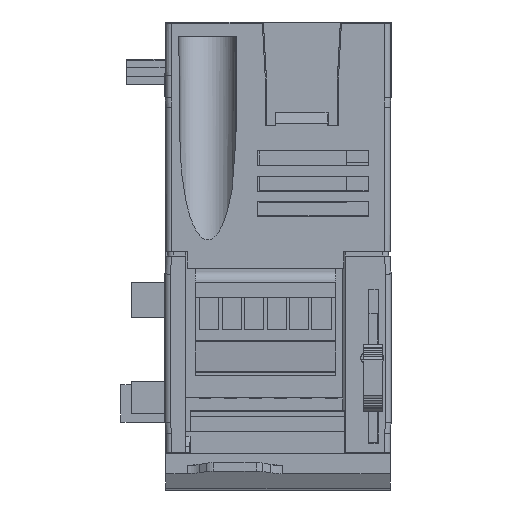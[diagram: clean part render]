
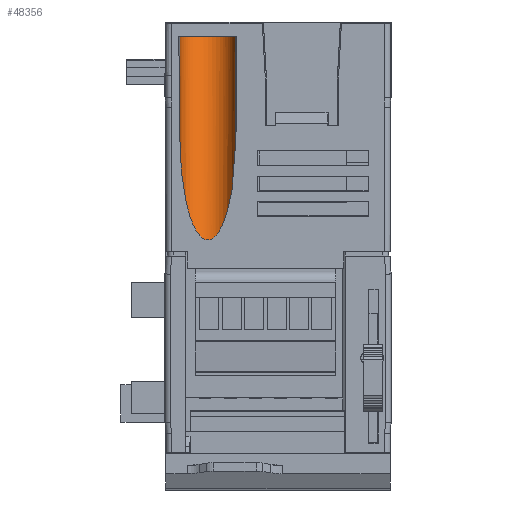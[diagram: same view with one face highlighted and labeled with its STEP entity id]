
A CAD part, front view. The second image highlights one B-rep face of the part: STEP entity #48356.
In plain terms, the highlighted cylindrical face has radius 5 mm (diameter 10 mm), a partial arc.
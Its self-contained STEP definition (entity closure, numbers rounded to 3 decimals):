
#17754=CARTESIAN_POINT('',(75.3,-39.781,0.9));
#17755=CARTESIAN_POINT('',(75.3,-38.931,0.9));
#17756=CARTESIAN_POINT('',(74.949,-37.582,0.9));
#17757=CARTESIAN_POINT('',(73.929,-36.051,0.9));
#17758=CARTESIAN_POINT('',(72.713,-35.143,0.9));
#17759=CARTESIAN_POINT('',(71.469,-34.686,0.9));
#17760=CARTESIAN_POINT('',(70.725,-34.58,0.9));
#17761=CARTESIAN_POINT('',(70.3,-34.58,0.9));
#17763=CARTESIAN_POINT('',(70.3,-34.58,0.9));
#17764=CARTESIAN_POINT('',(69.875,-34.58,0.9));
#17765=CARTESIAN_POINT('',(69.131,-34.686,0.9));
#17766=CARTESIAN_POINT('',(67.887,-35.143,0.9));
#17767=CARTESIAN_POINT('',(66.671,-36.051,0.9));
#17768=CARTESIAN_POINT('',(65.651,-37.582,0.9));
#17769=CARTESIAN_POINT('',(65.3,-38.931,0.9));
#17770=CARTESIAN_POINT('',(65.3,-39.781,0.9));
#17786=DIRECTION('',(0.,0.276,0.961));
#17787=VECTOR('',#17786,18.927);
#17788=CARTESIAN_POINT('',(75.3,-44.998,
-17.293));
#17789=LINE('',#17788,#17787);
#17790=CARTESIAN_POINT('',(75.3,-44.998,
-17.293));
#17791=CARTESIAN_POINT('',(75.3,-44.998,
-19.431));
#17792=CARTESIAN_POINT('',(75.087,-44.998,
-24.049));
#17793=CARTESIAN_POINT('',(73.94,-44.998,
-30.504));
#17794=CARTESIAN_POINT('',(72.461,-44.998,
-33.964));
#17795=CARTESIAN_POINT('',(71.203,-44.998,
-35.242));
#17796=CARTESIAN_POINT('',(70.3,-44.998,
-35.529));
#17797=CARTESIAN_POINT('',(69.397,-44.998,
-35.242));
#17798=CARTESIAN_POINT('',(68.139,-44.998,
-33.964));
#17799=CARTESIAN_POINT('',(66.66,-44.998,
-30.504));
#17800=CARTESIAN_POINT('',(65.513,-44.998,
-24.049));
#17801=CARTESIAN_POINT('',(65.3,-44.998,
-19.431));
#17802=CARTESIAN_POINT('',(65.3,-44.998,
-17.293));
#17804=DIRECTION('',(0.,-0.276,-0.961));
#17805=VECTOR('',#17804,18.927);
#17806=CARTESIAN_POINT('',(65.3,-39.781,0.9));
#17807=LINE('',#17806,#17805);
#21834=CARTESIAN_POINT('',(65.3,-44.998,
-17.293));
#21835=VERTEX_POINT('',#21834);
#21836=VERTEX_POINT('',#17790);
#21952=CARTESIAN_POINT('',(75.3,-39.781,
0.9));
#21953=VERTEX_POINT('',#21952);
#21954=VERTEX_POINT('',#17761);
#21955=VERTEX_POINT('',#17770);
#48343=CARTESIAN_POINT('',(70.3,-51.968,-41.6));
#48344=DIRECTION('',(0.,-0.276,-0.961));
#48345=DIRECTION('',(1.,0.,0.));
#48346=AXIS2_PLACEMENT_3D('',#48343,#48344,#48345);
#48347=CYLINDRICAL_SURFACE('',#48346,5.);
#48348=ORIENTED_EDGE('',*,*,#23595,.T.);
#48350=ORIENTED_EDGE('',*,*,#48349,.F.);
#48351=ORIENTED_EDGE('',*,*,#48317,.F.);
#48352=ORIENTED_EDGE('',*,*,#48315,.F.);
#48353=ORIENTED_EDGE('',*,*,#48337,.F.);
#48354=EDGE_LOOP('',(#48348,#48350,#48351,#48352,#48353));
#48355=FACE_OUTER_BOUND('',#48354,.F.);
#48356=ADVANCED_FACE('',(#48355),#48347,.F.);
#17762=B_SPLINE_CURVE_WITH_KNOTS('',3,(#17754,#17755,#17756,#17757,#17758,
#17759,#17760,#17761),.UNSPECIFIED.,.F.,.F.,(4,1,1,1,1,4),(0.,0.25,0.5,
0.75,0.875,1.),.UNSPECIFIED.);
#17771=B_SPLINE_CURVE_WITH_KNOTS('',3,(#17763,#17764,#17765,#17766,#17767,
#17768,#17769,#17770),.UNSPECIFIED.,.F.,.F.,(4,1,1,1,1,4),(0.,0.125,0.25,
0.5,0.75,1.),.UNSPECIFIED.);
#17803=B_SPLINE_CURVE_WITH_KNOTS('',3,(#17790,#17791,#17792,#17793,#17794,
#17795,#17796,#17797,#17798,#17799,#17800,#17801,#17802),.UNSPECIFIED.,.F.,.F.,(
4,1,1,1,1,1,1,1,1,1,4),(0.,0.125,0.25,0.375,0.438,0.5,0.563,
0.625,0.75,0.875,1.),.UNSPECIFIED.);
#23595=EDGE_CURVE('',#21836,#21835,#17803,.T.);
#48315=EDGE_CURVE('',#21953,#21954,#17762,.T.);
#48317=EDGE_CURVE('',#21954,#21955,#17771,.T.);
#48337=EDGE_CURVE('',#21836,#21953,#17789,.T.);
#48349=EDGE_CURVE('',#21955,#21835,#17807,.T.);
